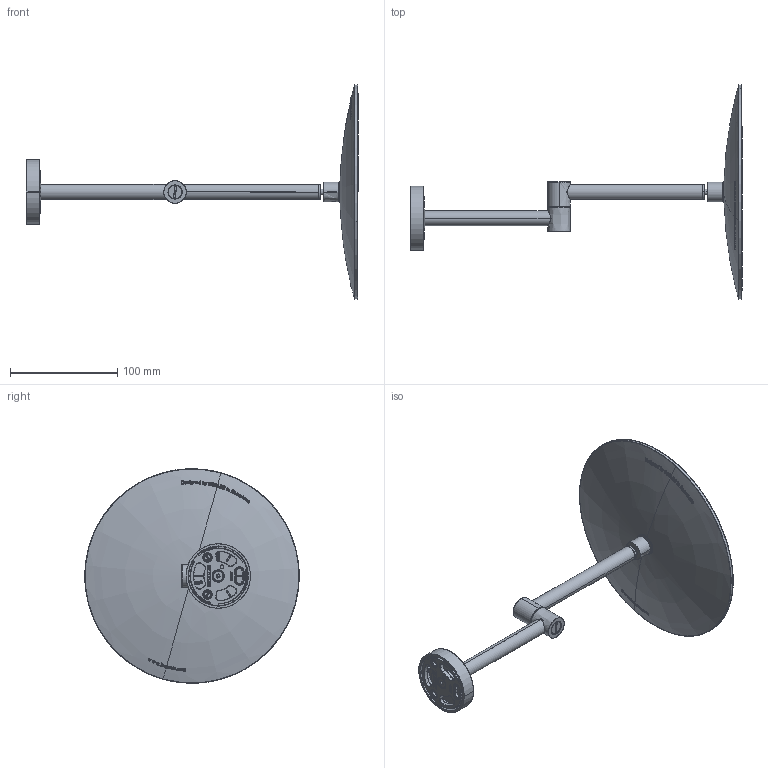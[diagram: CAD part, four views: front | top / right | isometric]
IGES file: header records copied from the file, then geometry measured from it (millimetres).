
Start section: SolidWorks IGES file using analytic representation for surfaces
Global section: file name: G:\Projects\New project\For Marketing\Cosmic\For DXF and IGS\2015-3-6\2510585VW.IGS; native system: SolidWorks 2010; preprocessor: SolidWorks 2010; author: linda; date: 150407.134403; units: millimetre
Bounding box: 309.63 x 199.94 x 200 mm (x, y, z)
Surface area: 173379.5 mm2 (no closed solid volume)
Topology: 0 solids, 0 shells, 3225 faces, 34746 edges, 34712 vertices
Faces by surface type: bspline 2249, revolution 976
